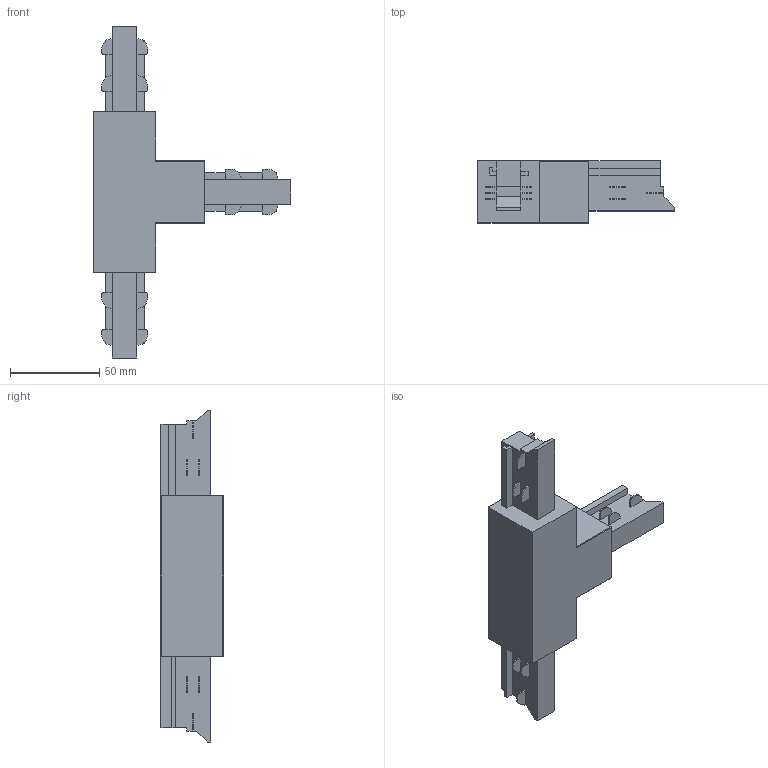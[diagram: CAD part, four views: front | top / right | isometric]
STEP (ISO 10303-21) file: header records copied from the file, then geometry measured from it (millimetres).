
FILE_DESCRIPTION (( 'STEP AP214' ), '1' );
FILE_NAME ('Kehui Track - T joiner.STEP', '2024-05-08T23:38:13', ( '' ), ( '' ), 'SwSTEP 2.0', 'SolidWorks 2021', '' );
FILE_SCHEMA (( 'AUTOMOTIVE_DESIGN' ));
Length unit declared in the file: millimetre
Products named in the file (1): Kehui Track - T joiner
Bounding box: 110.5 x 34.81 x 186 mm (x, y, z)
Volume: 194605.7 mm3; surface area: 36366.6 mm2
Topology: 25 solids, 25 shells, 212 faces, 482 edges, 320 vertices
Faces by surface type: plane 166, cylinder 36, bspline 10
Entity records: 6208 total; most frequent: CARTESIAN_POINT 1149, ORIENTED_EDGE 964, DIRECTION 944, EDGE_CURVE 482, VECTOR 394, LINE 394, VERTEX_POINT 320, AXIS2_PLACEMENT_3D 275
